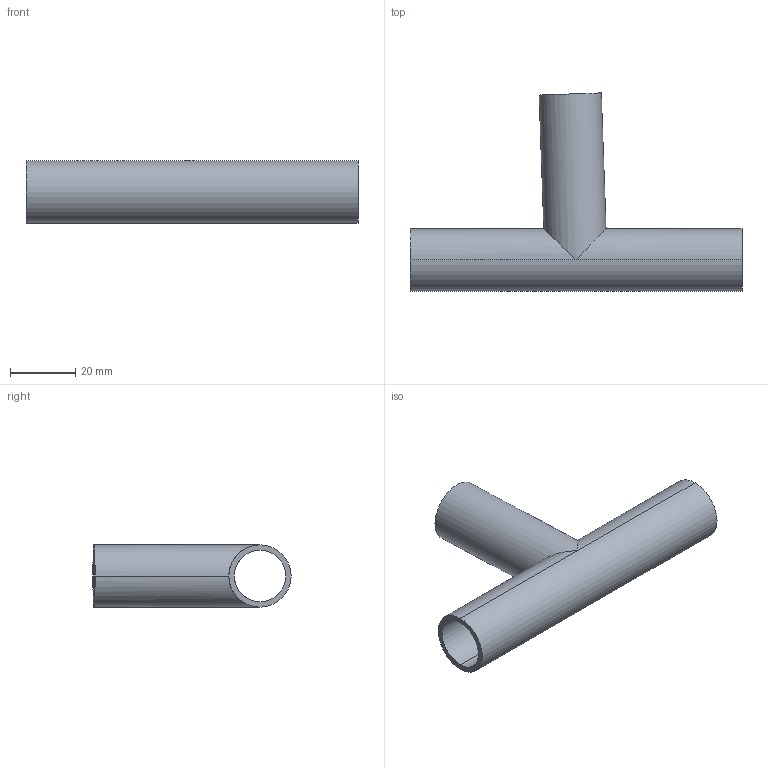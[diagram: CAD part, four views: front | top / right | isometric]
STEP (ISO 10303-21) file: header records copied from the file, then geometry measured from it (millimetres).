
FILE_DESCRIPTION (( 'STEP AP214' ), '1' );
FILE_NAME ('TE7WWW886L.75.STEP', '2025-07-24T13:35:51', ( '' ), ( '' ), 'SwSTEP 2.0', 'SolidWorks 2021', '' );
FILE_SCHEMA (( 'AUTOMOTIVE_DESIGN' ));
Length unit declared in the file: inch
Products named in the file (1): TE7WWW886L.75
Bounding box: 101.6 x 60.66 x 19.05 mm (x, y, z)
Volume: 12752.9 mm3; surface area: 15712.1 mm2
Topology: 1 solids, 1 shells, 12 faces, 32 edges, 22 vertices
Faces by surface type: cylinder 9, plane 3
Entity records: 434 total; most frequent: CARTESIAN_POINT 97, ORIENTED_EDGE 64, DIRECTION 60, EDGE_CURVE 32, AXIS2_PLACEMENT_3D 25, VERTEX_POINT 22, EDGE_LOOP 16, ADVANCED_FACE 12
